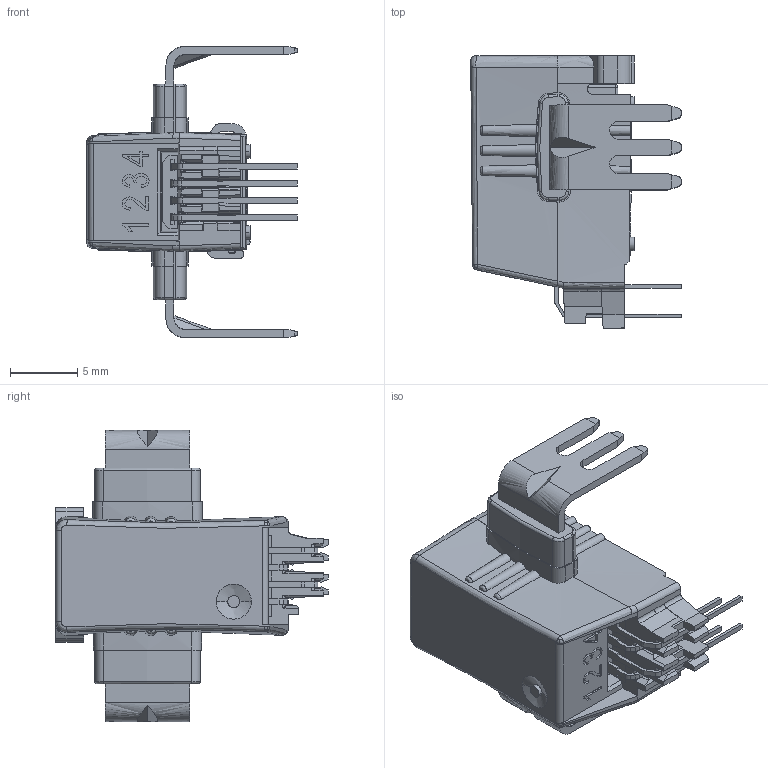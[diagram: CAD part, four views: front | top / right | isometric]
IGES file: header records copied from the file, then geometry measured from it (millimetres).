
Start section: Elysium IGES Interface
Global section: file name: U:\PROJET 1.5\BLACKBOX_180112\HLSR_P_blackbox_180113.igs; native system: Creo Elements/Direct Modeling 17.0E  05-Feb-2012; preprocessor: Creo Element/Direct IGES_3D V2.2; author: Unknown; organization: Unknown; date: 20130118.092839; units: millimetre
Bounding box: 15.62 x 20.23 x 21.6 mm (x, y, z)
Volume: 1450.8 mm3; surface area: 2850.7 mm2
Topology: 1 solids, 3 shells, 1351 faces, 3732 edges, 2430 vertices
Faces by surface type: bspline 1351
